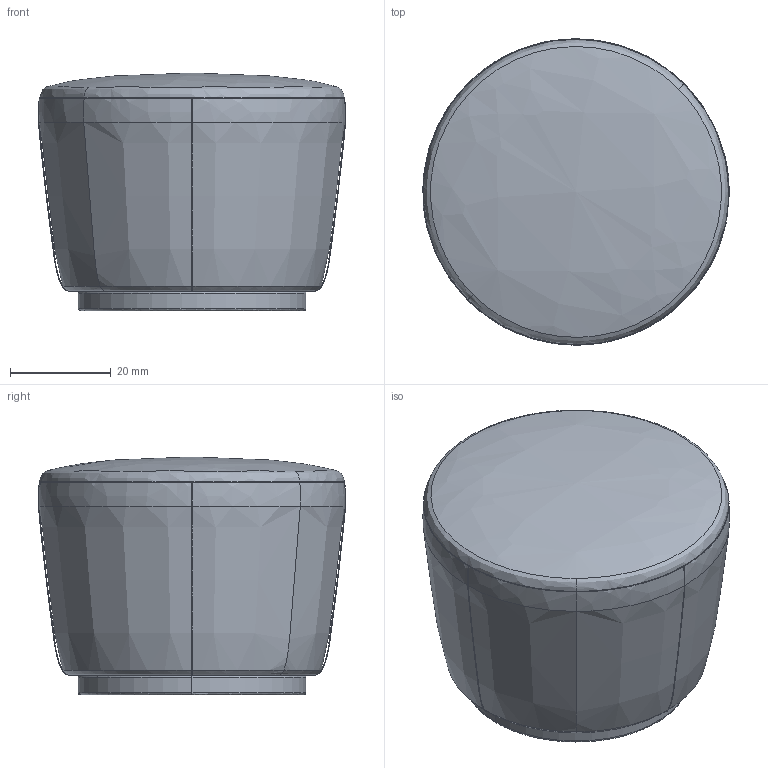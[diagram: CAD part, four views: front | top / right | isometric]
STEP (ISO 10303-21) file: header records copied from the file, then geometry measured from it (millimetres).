
FILE_DESCRIPTION(/* description */ (''),/* implementation_level */ '2;1');
FILE_NAME(/* name */ 'Malia Hocker',/* time_stamp */ '2019-01-31T20:06:47+01:00',/* author */ (''),/* organization */ (''),/* preprocessor_version */ 'ST-DEVELOPER v15',/* originating_system */ '',/* authorisation */ '');
FILE_SCHEMA (('AUTOMOTIVE_DESIGN'));
Length unit declared in the file: millimetre
Products named in the file (1): Document
Bounding box: 60.8 x 60.8 x 47.14 mm (x, y, z)
Volume: 116162.8 mm3; surface area: 15945.5 mm2
Topology: 8 solids, 8 shells, 40 faces, 69 edges, 41 vertices
Faces by surface type: bspline 30, plane 10
Entity records: 9786 total; most frequent: CARTESIAN_POINT 9329, ORIENTED_EDGE 138, EDGE_CURVE 69, VERTEX_POINT 41, ADVANCED_FACE 40, FACE_OUTER_BOUND 40, EDGE_LOOP 40, DIRECTION 14
